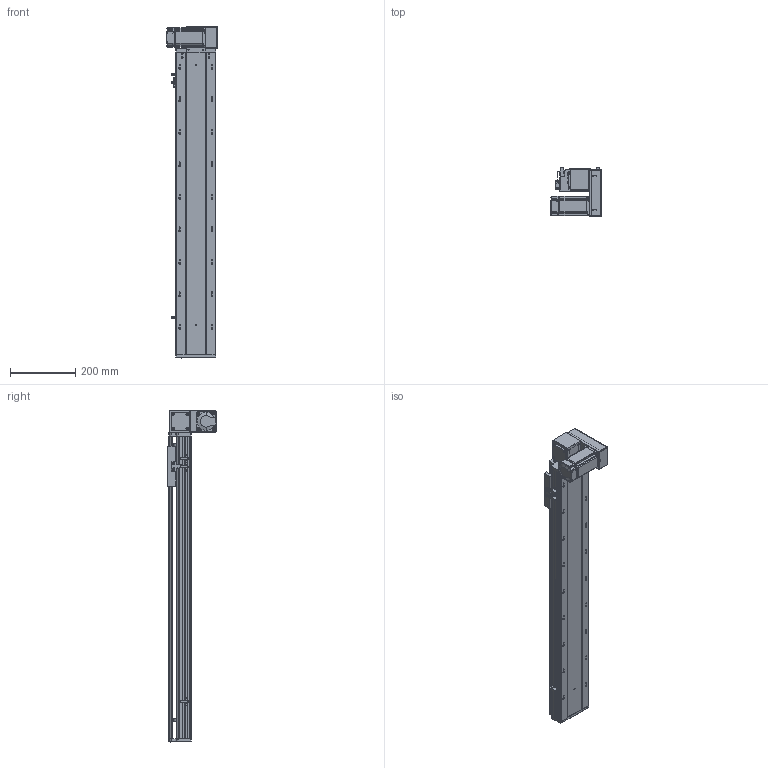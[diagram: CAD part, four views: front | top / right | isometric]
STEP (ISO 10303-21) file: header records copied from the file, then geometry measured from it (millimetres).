
FILE_DESCRIPTION (( 'STEP AP203' ), '1' );
FILE_NAME ('RY120-T-300-DR.SLDASM_700.step', '2021-03-01T03:35:12', ( '盈信电脑' ), ( '东莞市道滘镇水果街19号' ), 'SwSTEP 2.0', 'SolidWorks 2012', '' );
FILE_SCHEMA (( 'CONFIG_CONTROL_DESIGN' ));
Length unit declared in the file: millimetre
Products named in the file (17): RY120-T-300-DR倰第菁釱_700; RY120肮祭湍臏賑輸; RY120-T-300-DR倰第奻裔啣_700; RY120外置感应片(140共用）; RY120-T肮祭湍揤踡輸1; 覜茼ん672; RY120綴裔啣; RY120-T-300-DR.SLDASM_700; RY120-T萇儂欶; RY120-T蹟翐M4; RY120-T萇儂假蚾啣; RY120-T主同步轮轴承压盖; RY120-T翋肮祭盓傅釱; 15; RY120-T翋肮祭謫裔啣; 滅袉蝶18-10; RY120-T肮祭湍揤踡輸2
Assembly tree (22 placements, depth 2):
  RY120-T-300-DR.SLDASM_700
    RY120-T-300-DR倰第菁釱_700
    RY120-T-300-DR倰第奻裔啣_700
    RY120肮祭湍臏賑輸
    RY120綴裔啣
    覜茼ん672  x3
    RY120外置感应片(140共用）
    RY120-T肮祭湍揤踡輸1
    RY120-T肮祭湍揤踡輸2
    RY120-T翋肮祭盓傅釱
    滅袉蝶18-10  x2
    RY120-T翋肮祭謫裔啣
    15
    RY120-T萇儂假蚾啣
    RY120-T蹟翐M4  x4
    RY120-T萇儂欶
    RY120-T主同步轮轴承压盖
Bounding box: 155.5 x 150 x 1021 mm (x, y, z)
Volume: 2955303.6 mm3; surface area: 1091516.3 mm2
Topology: 23 solids, 23 shells, 2856 faces, 7824 edges, 5036 vertices
Faces by surface type: plane 1432, cylinder 1102, cone 233, bspline 89
Entity records: 91973 total; most frequent: CARTESIAN_POINT 23970, ORIENTED_EDGE 14112, DIRECTION 13206, EDGE_CURVE 7056, VERTEX_POINT 4623, AXIS2_PLACEMENT_3D 4423, LINE 4360, VECTOR 4360
